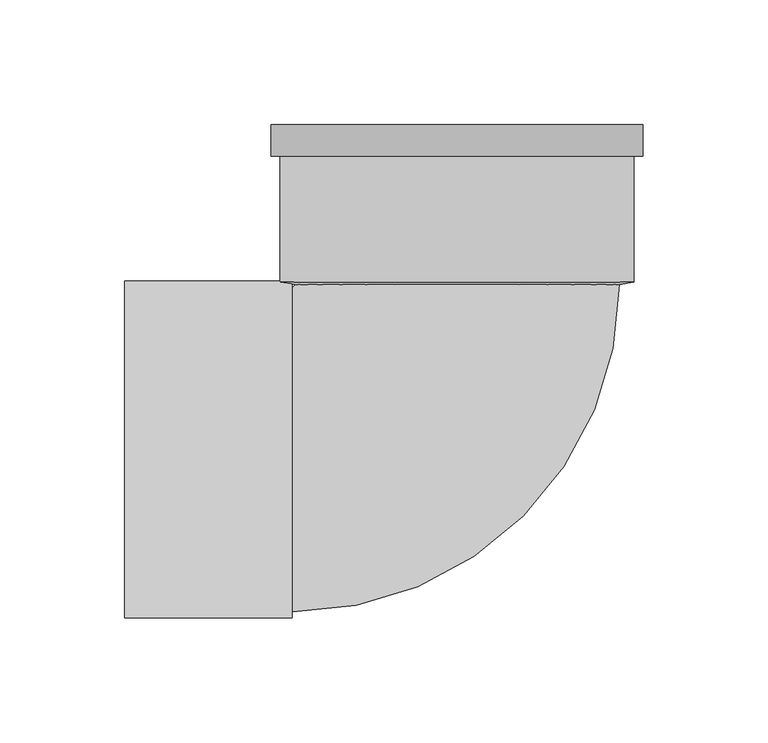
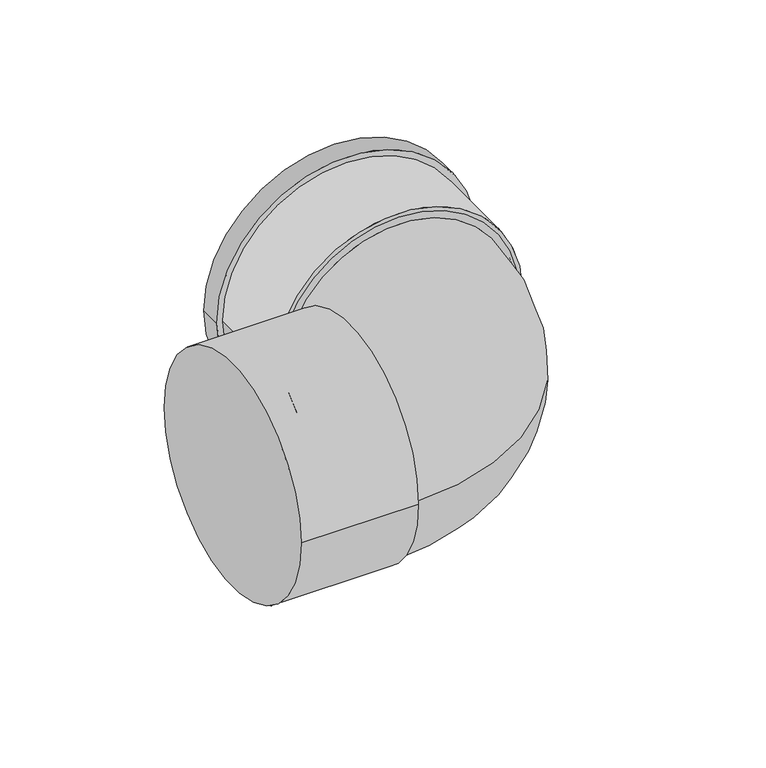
"""IFC4 building model written with IfcOpenShell, lengths in millimetres: pipe fitting geometry, Superdrain SKB Bend : Superdrain SKB Bend."""

from ifc_helpers import new_model, si_unit, point, frame, origin, origin_2d, place, context, project, spatial, polyline, circle_curve, ellipse_curve, trimmed, segment, composite_curve, outline, extrude, source, transform, mapped, element, save
from ifc_brep_helpers import plane_surface, revolved_surface, advanced_brep


def pipe_fitting_9b191db9(model_context):
    return source(origin(), model_context, "Body", "SolidModel", [
        advanced_brep(
        [(65.0, 66.0, 0.0), (-65.0, 66.0, 0.0), (-66.0, -65.0, 0.0), (-66.0, 65.0, 0.0)],
        [
            (0, 1, circle_curve(frame((0.0, 66.0, 0.0), z_axis=(0.0, 1.0, 0.0), x_axis=(-1.0, 0.0, 0.0)), 65.0)),
            (1, 0, circle_curve(frame((0.0, 66.0, 0.0), z_axis=(0.0, 1.0, 0.0), x_axis=(-1.0, 0.0, 0.0)), 65.0)),
            (2, 3, circle_curve(frame((-66.0, 0.0, 0.0), z_axis=(-1.0, 0.0, 0.0), x_axis=(0.0, 1.0, 0.0)), 65.0)),
            (3, 2, circle_curve(frame((-66.0, 0.0, 0.0), z_axis=(-1.0, 0.0, 0.0), x_axis=(0.0, 1.0, 0.0)), 65.0)),
            (3, 1, circle_curve(frame((-66.0, 66.0, 0.0), z_axis=(0.0, 0.0, 1.0), x_axis=(1.0, 0.0, 0.0)), 1.0)),
            (0, 2, circle_curve(frame((-66.0, 66.0, 0.0), z_axis=(0.0, 0.0, -1.0), x_axis=(1.0, 0.0, 0.0)), 131.0)),
        ],
        [
            plane_surface(frame((0.0, 66.0, 0.0), z_axis=(0.0, 1.0, 0.0), x_axis=(0.0, 0.0, -1.0))),
            plane_surface(frame((-66.0, 0.0, 0.0), z_axis=(-1.0, 0.0, 0.0), x_axis=(0.0, 0.0, -1.0))),
            revolved_surface(trimmed(ellipse_curve(frame((0.0, 66.0, 0.0), z_axis=(0.0, -1.0, 0.0), x_axis=(-1.0, 0.0, 0.0)), 65.0, 65.0), [point((-65.0, 66.0, 0.0))], [point((65.0, 66.0, 0.0))], True, "CARTESIAN"), (-66.0, 66.0, 0.0), (0.0, 0.0, 1.0)),
            revolved_surface(trimmed(ellipse_curve(frame((0.0, 66.0, 0.0), z_axis=(0.0, -1.0, 0.0), x_axis=(-1.0, 0.0, 0.0)), 65.0, 65.0), [point((65.0, 66.0, 0.0))], [point((-65.0, 66.0, 0.0))], True, "CARTESIAN"), (-66.0, 66.0, 0.0), (0.0, 0.0, 1.0)),
        ],
        [
            (0, [[1, 2]]),
            (1, [[3, 4]]),
            (2, [[-4, 5, -1, 6]]),
            (3, [[-3, -6, -2, -5]]),
        ],
    ),
        extrude(outline(composite_curve([segment(trimmed(circle_curve(origin_2d(), 70.875), [point((0.0, 70.875))], [point((0.0, -70.875))], False, "CARTESIAN"), True, "CONTINUOUS"), segment(trimmed(circle_curve(origin_2d(), 70.875), [point((0.0, -70.875))], [point((0.0, 70.875))], False, "CARTESIAN"), True, "CONTINUOUS")], self_intersect=False), holes=[composite_curve([segment(trimmed(circle_curve(origin_2d(), 67.5), [point((0.0, 67.5))], [point((0.0, -67.5))], True, "CARTESIAN"), True, "CONTINUOUS"), segment(trimmed(circle_curve(origin_2d(), 67.5), [point((0.0, -67.5))], [point((0.0, 67.5))], True, "CARTESIAN"), True, "CONTINUOUS")], self_intersect=False)]), frame((0.0, 67.0, 0.0), z_axis=(0.0, 1.0, 0.0), x_axis=(0.0, 0.0, 1.0)), (0.0, 0.0, 1.0), 63.0),
        extrude(outline(composite_curve([segment(trimmed(circle_curve(origin_2d(), 74.41875), [point((0.0, -74.41875))], [point((0.0, 74.41875))], False, "CARTESIAN"), True, "CONTINUOUS"), segment(trimmed(circle_curve(origin_2d(), 74.41875), [point((0.0, 74.41875))], [point((0.0, -74.41875))], False, "CARTESIAN"), True, "CONTINUOUS")], self_intersect=False), holes=[composite_curve([segment(trimmed(circle_curve(origin_2d(), 67.5), [point((0.0, -67.5))], [point((0.0, 67.5))], True, "CARTESIAN"), True, "CONTINUOUS"), segment(trimmed(circle_curve(origin_2d(), 67.5), [point((0.0, 67.5))], [point((0.0, -67.5))], True, "CARTESIAN"), True, "CONTINUOUS")], self_intersect=False)]), frame((0.0, 117.4, 0.0), z_axis=(0.0, 1.0, 0.0), x_axis=(0.0, 0.0, 1.0)), (0.0, 0.0, 1.0), 12.6),
        advanced_brep(
        [(70.875, 67.0, 0.0), (-70.875, 67.0, 0.0), (65.0, 66.0, 0.0), (-65.0, 66.0, 0.0)],
        [
            (0, 1, circle_curve(frame((0.0, 67.0, 0.0), z_axis=(0.0, 1.0, 0.0), x_axis=(1.0, 0.0, 0.0)), 70.875)),
            (1, 0, circle_curve(frame((0.0, 67.0, 0.0), z_axis=(0.0, 1.0, 0.0), x_axis=(-1.0, 0.0, 0.0)), 70.875)),
            (2, 3, circle_curve(frame((0.0, 66.0, 0.0), z_axis=(0.0, -1.0, 0.0), x_axis=(-1.0, 0.0, 0.0)), 65.0)),
            (3, 2, circle_curve(frame((0.0, 66.0, 0.0), z_axis=(0.0, -1.0, 0.0), x_axis=(1.0, 0.0, 0.0)), 65.0)),
            (3, 1),
            (0, 2),
        ],
        [
            plane_surface(frame((0.0, 67.0, 0.0), z_axis=(0.0, 1.0, 0.0), x_axis=(0.0, 0.0, -1.0))),
            plane_surface(frame((0.0, 66.0, 0.0), z_axis=(0.0, -1.0, 0.0), x_axis=(0.0, 0.0, -1.0))),
            revolved_surface(polyline([(-65.00000000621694, 66.0, 0.0), (-70.875, 67.0, 0.0)]), (0.0, 54.9361702, 0.0), (0.0, 1.0, 0.0)),
            revolved_surface(polyline([(65.00000000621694, 66.0, 0.0), (70.875, 67.0, 0.0)]), (0.0, 54.9361702, 0.0), (0.0, 1.0, 0.0)),
        ],
        [
            (0, [[1, 2]]),
            (1, [[3, 4]]),
            (2, [[-4, 5, -1, 6]]),
            (3, [[-3, -6, -2, -5]]),
        ],
    ),
        extrude(outline(composite_curve([segment(trimmed(circle_curve(origin_2d(), 67.5), [point((-67.5, 0.0))], [point((67.5, 0.0))], False, "CARTESIAN"), True, "CONTINUOUS"), segment(trimmed(circle_curve(origin_2d(), 67.5), [point((67.5, 0.0))], [point((-67.5, 0.0))], False, "CARTESIAN"), True, "CONTINUOUS")], self_intersect=False)), frame((-133.0, 0.0, 0.0), z_axis=(1.0, 0.0, 0.0), x_axis=(0.0, 1.0, 0.0)), (0.0, 0.0, 1.0), 67.0),
    ])


if __name__ == "__main__":
    model = new_model("IFC4")
    model_context = context("Model", 3, world=origin())
    ifc_project = project(units=[si_unit("LENGTHUNIT", "METRE", prefix="MILLI")], contexts=[model_context])
    site = spatial("IfcSite", under=ifc_project)
    building = spatial("IfcBuilding", under=site)
    placement = place(None, origin())
    pipe_fitting_shape = pipe_fitting_9b191db9(model_context)
    element("IfcPipeFitting", 1, ObjectType="Superdrain SKB Bend : Superdrain SKB Bend", at=placement, inside=building, context=model_context, shape_type="MappedRepresentation", body=[
        mapped(pipe_fitting_shape, transform((0.0, 0.0, 0.0), x_axis=(1.0, 0.0, 0.0), y_axis=(0.0, 1.0, 0.0), z_axis=(0.0, 0.0, 1.0))),
    ])
    save(model, "model.ifc")
